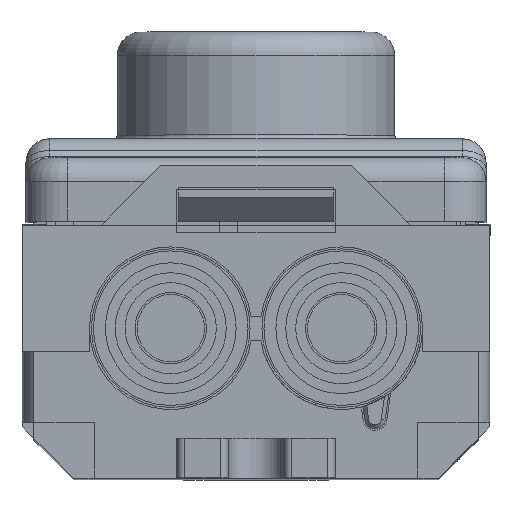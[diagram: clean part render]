
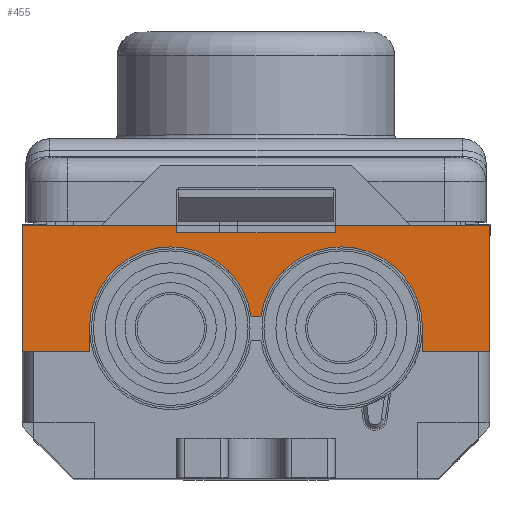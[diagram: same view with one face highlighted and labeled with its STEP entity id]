
A CAD part, top view. The second image highlights one B-rep face of the part: STEP entity #455.
In plain terms, the highlighted planar face has unit normal (0, 0, 1).
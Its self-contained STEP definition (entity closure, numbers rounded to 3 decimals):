
#132 = CARTESIAN_POINT ( 'NONE',  ( 0.826, 0.828, 161.7 ) ) ;
#244 = VERTEX_POINT ( 'NONE', #20962 ) ;
#455 = ADVANCED_FACE ( 'NONE', ( #29196 ), #6462, .T. ) ;
#748 = EDGE_CURVE ( 'NONE', #8318, #244, #10753, .T. ) ;
#986 = CARTESIAN_POINT ( 'NONE',  ( -29.284, 12.328, 161.7 ) ) ;
#1008 = VECTOR ( 'NONE', #8111, 1000. ) ;
#1191 = EDGE_CURVE ( 'NONE', #31389, #7045, #13922, .T. ) ;
#1247 = CARTESIAN_POINT ( 'NONE',  ( 0.826, 0.828, 161.7 ) ) ;
#1757 = CARTESIAN_POINT ( 'NONE',  ( -29.284, -3.672, 161.7 ) ) ;
#2224 = VECTOR ( 'NONE', #20614, 1000. ) ;
#2250 = DIRECTION ( 'NONE',  ( 0., -1., 0. ) ) ;
#2335 = CARTESIAN_POINT ( 'NONE',  ( 21.216, -3.672, 161.7 ) ) ;
#2759 = ORIENTED_EDGE ( 'NONE', *, *, #4877, .F. ) ;
#3237 = EDGE_CURVE ( 'NONE', #3375, #5194, #29451, .T. ) ;
#3375 = VERTEX_POINT ( 'NONE', #1247 ) ;
#3767 = EDGE_CURVE ( 'NONE', #11212, #31389, #23944, .T. ) ;
#3807 = ORIENTED_EDGE ( 'NONE', *, *, #23050, .F. ) ;
#4365 = CARTESIAN_POINT ( 'NONE',  ( 21.216, -3.672, 161.7 ) ) ;
#4670 = EDGE_CURVE ( 'NONE', #13442, #13118, #11511, .T. ) ;
#4877 = EDGE_CURVE ( 'NONE', #31993, #13442, #21113, .T. ) ;
#5194 = VERTEX_POINT ( 'NONE', #6915 ) ;
#5500 = LINE ( 'NONE', #28510, #11488 ) ;
#5922 = CARTESIAN_POINT ( 'NONE',  ( 10.216, 12.328, 161.7 ) ) ;
#5982 = CARTESIAN_POINT ( 'NONE',  ( -29.284, -3.672, 161.7 ) ) ;
#6156 = ORIENTED_EDGE ( 'NONE', *, *, #24367, .F. ) ;
#6237 = VERTEX_POINT ( 'NONE', #12427 ) ;
#6462 = PLANE ( 'NONE',  #16543 ) ;
#6472 = EDGE_CURVE ( 'NONE', #7045, #31993, #14648, .T. ) ;
#6915 = CARTESIAN_POINT ( 'NONE',  ( -0.394, 0.828, 161.7 ) ) ;
#7045 = VERTEX_POINT ( 'NONE', #30076 ) ;
#7288 = VERTEX_POINT ( 'NONE', #11206 ) ;
#7603 = VECTOR ( 'NONE', #24746, 1000. ) ;
#7804 = DIRECTION ( 'NONE',  ( -1., 0., 0. ) ) ;
#8111 = DIRECTION ( 'NONE',  ( 0., -1., 0. ) ) ;
#8155 = ORIENTED_EDGE ( 'NONE', *, *, #6472, .F. ) ;
#8318 = VERTEX_POINT ( 'NONE', #24193 ) ;
#8537 = DIRECTION ( 'NONE',  ( 0., 1., 0. ) ) ;
#9286 = LINE ( 'NONE', #5982, #22071 ) ;
#9399 = ORIENTED_EDGE ( 'NONE', *, *, #20755, .F. ) ;
#9978 = VECTOR ( 'NONE', #7804, 1000. ) ;
#10379 = VECTOR ( 'NONE', #26515, 1000. ) ;
#10422 = ORIENTED_EDGE ( 'NONE', *, *, #3237, .F. ) ;
#10610 = ORIENTED_EDGE ( 'NONE', *, *, #19822, .F. ) ;
#10697 = AXIS2_PLACEMENT_3D ( 'NONE', #14050, #31971, #16614 ) ;
#10746 = EDGE_CURVE ( 'NONE', #6237, #7288, #5500, .T. ) ;
#10753 = LINE ( 'NONE', #18866, #31178 ) ;
#11206 = CARTESIAN_POINT ( 'NONE',  ( -9.784, 11.328, 161.7 ) ) ;
#11212 = VERTEX_POINT ( 'NONE', #26415 ) ;
#11365 = ORIENTED_EDGE ( 'NONE', *, *, #23717, .F. ) ;
#11398 = VERTEX_POINT ( 'NONE', #19817 ) ;
#11488 = VECTOR ( 'NONE', #31061, 1000. ) ;
#11511 = LINE ( 'NONE', #4365, #17532 ) ;
#11548 = ORIENTED_EDGE ( 'NONE', *, *, #4670, .F. ) ;
#11650 = CARTESIAN_POINT ( 'NONE',  ( 29.716, 12.328, 161.7 ) ) ;
#12110 = DIRECTION ( 'NONE',  ( 0., 1., 0. ) ) ;
#12427 = CARTESIAN_POINT ( 'NONE',  ( -9.784, 12.328, 161.7 ) ) ;
#12581 = ORIENTED_EDGE ( 'NONE', *, *, #10746, .F. ) ;
#12898 = CIRCLE ( 'NONE', #17243, 10.25 ) ;
#13118 = VERTEX_POINT ( 'NONE', #31651 ) ;
#13234 = CARTESIAN_POINT ( 'NONE',  ( 10.966, -0.672, 161.7 ) ) ;
#13283 = VERTEX_POINT ( 'NONE', #1757 ) ;
#13442 = VERTEX_POINT ( 'NONE', #2335 ) ;
#13463 = AXIS2_PLACEMENT_3D ( 'NONE', #13234, #31140, #15793 ) ;
#13522 = CARTESIAN_POINT ( 'NONE',  ( -29.284, -3.672, 161.7 ) ) ;
#13922 = LINE ( 'NONE', #24131, #20748 ) ;
#13959 = CIRCLE ( 'NONE', #10697, 10.25 ) ;
#14050 = CARTESIAN_POINT ( 'NONE',  ( 10.966, -0.672, 161.7 ) ) ;
#14424 = DIRECTION ( 'NONE',  ( 0., 0., 1. ) ) ;
#14648 = LINE ( 'NONE', #26020, #1008 ) ;
#14940 = VECTOR ( 'NONE', #29582, 1000. ) ;
#15398 = CIRCLE ( 'NONE', #13463, 10.25 ) ;
#15722 = CARTESIAN_POINT ( 'NONE',  ( 29.716, -3.672, 161.7 ) ) ;
#15793 = DIRECTION ( 'NONE',  ( 0., 1., 0. ) ) ;
#16076 = DIRECTION ( 'NONE',  ( -1., 0., 0. ) ) ;
#16543 = AXIS2_PLACEMENT_3D ( 'NONE', #15722, #30628, #27137 ) ;
#16614 = DIRECTION ( 'NONE',  ( 0., 1., 0. ) ) ;
#17243 = AXIS2_PLACEMENT_3D ( 'NONE', #32932, #17583, #2250 ) ;
#17532 = VECTOR ( 'NONE', #12110, 1000. ) ;
#17583 = DIRECTION ( 'NONE',  ( 0., 0., 1. ) ) ;
#17869 = CARTESIAN_POINT ( 'NONE',  ( -29.284, -3.672, 161.7 ) ) ;
#18028 = EDGE_LOOP ( 'NONE', ( #12581, #10610, #9399, #6156, #18656, #20175, #31647, #10422, #19528, #3807, #11548, #2759, #8155, #19759, #18587, #11365 ) ) ;
#18587 = ORIENTED_EDGE ( 'NONE', *, *, #3767, .F. ) ;
#18656 = ORIENTED_EDGE ( 'NONE', *, *, #748, .F. ) ;
#18866 = CARTESIAN_POINT ( 'NONE',  ( -20.784, -3.672, 161.7 ) ) ;
#19528 = ORIENTED_EDGE ( 'NONE', *, *, #33188, .F. ) ;
#19759 = ORIENTED_EDGE ( 'NONE', *, *, #1191, .F. ) ;
#19817 = CARTESIAN_POINT ( 'NONE',  ( 10.966, 9.578, 161.7 ) ) ;
#19822 = EDGE_CURVE ( 'NONE', #31445, #6237, #26928, .T. ) ;
#20175 = ORIENTED_EDGE ( 'NONE', *, *, #20408, .F. ) ;
#20408 = EDGE_CURVE ( 'NONE', #23400, #8318, #28537, .T. ) ;
#20614 = DIRECTION ( 'NONE',  ( -1., 0., 0. ) ) ;
#20748 = VECTOR ( 'NONE', #21685, 1000. ) ;
#20755 = EDGE_CURVE ( 'NONE', #13283, #31445, #9286, .T. ) ;
#20962 = CARTESIAN_POINT ( 'NONE',  ( -20.784, -3.672, 161.7 ) ) ;
#21113 = LINE ( 'NONE', #13522, #27135 ) ;
#21685 = DIRECTION ( 'NONE',  ( 1., 0., 0. ) ) ;
#21962 = LINE ( 'NONE', #17869, #9978 ) ;
#22071 = VECTOR ( 'NONE', #8537, 1000. ) ;
#22159 = CARTESIAN_POINT ( 'NONE',  ( 10.216, 11.328, 161.7 ) ) ;
#22187 = CARTESIAN_POINT ( 'NONE',  ( 29.716, -3.672, 161.7 ) ) ;
#23050 = EDGE_CURVE ( 'NONE', #13118, #11398, #13959, .T. ) ;
#23400 = VERTEX_POINT ( 'NONE', #25337 ) ;
#23717 = EDGE_CURVE ( 'NONE', #7288, #11212, #28046, .T. ) ;
#23934 = CARTESIAN_POINT ( 'NONE',  ( 10.216, 16.828, 161.7 ) ) ;
#23944 = LINE ( 'NONE', #23934, #10379 ) ;
#24131 = CARTESIAN_POINT ( 'NONE',  ( 29.716, 12.328, 161.7 ) ) ;
#24193 = CARTESIAN_POINT ( 'NONE',  ( -20.784, -0.672, 161.7 ) ) ;
#24367 = EDGE_CURVE ( 'NONE', #244, #13283, #21962, .T. ) ;
#24746 = DIRECTION ( 'NONE',  ( 1., 0., 0. ) ) ;
#25337 = CARTESIAN_POINT ( 'NONE',  ( -10.534, 9.578, 161.7 ) ) ;
#26020 = CARTESIAN_POINT ( 'NONE',  ( 29.716, -3.672, 161.7 ) ) ;
#26415 = CARTESIAN_POINT ( 'NONE',  ( 10.216, 11.328, 161.7 ) ) ;
#26515 = DIRECTION ( 'NONE',  ( 0., 1., 0. ) ) ;
#26928 = LINE ( 'NONE', #11650, #14940 ) ;
#27135 = VECTOR ( 'NONE', #16076, 1000. ) ;
#27137 = DIRECTION ( 'NONE',  ( 0., -1., 0. ) ) ;
#27185 = AXIS2_PLACEMENT_3D ( 'NONE', #29761, #14424, #32331 ) ;
#27473 = EDGE_CURVE ( 'NONE', #5194, #23400, #12898, .T. ) ;
#28046 = LINE ( 'NONE', #22159, #7603 ) ;
#28510 = CARTESIAN_POINT ( 'NONE',  ( -9.784, 16.828, 161.7 ) ) ;
#28537 = CIRCLE ( 'NONE', #27185, 10.25 ) ;
#29196 = FACE_OUTER_BOUND ( 'NONE', #18028, .T. ) ;
#29451 = LINE ( 'NONE', #132, #2224 ) ;
#29582 = DIRECTION ( 'NONE',  ( 1., 0., 0. ) ) ;
#29761 = CARTESIAN_POINT ( 'NONE',  ( -10.534, -0.672, 161.7 ) ) ;
#30076 = CARTESIAN_POINT ( 'NONE',  ( 29.716, 12.328, 161.7 ) ) ;
#30628 = DIRECTION ( 'NONE',  ( 0., 0., 1. ) ) ;
#31061 = DIRECTION ( 'NONE',  ( 0., -1., 0. ) ) ;
#31140 = DIRECTION ( 'NONE',  ( 0., 0., 1. ) ) ;
#31178 = VECTOR ( 'NONE', #31642, 1000. ) ;
#31389 = VERTEX_POINT ( 'NONE', #5922 ) ;
#31445 = VERTEX_POINT ( 'NONE', #986 ) ;
#31642 = DIRECTION ( 'NONE',  ( 0., -1., 0. ) ) ;
#31647 = ORIENTED_EDGE ( 'NONE', *, *, #27473, .F. ) ;
#31651 = CARTESIAN_POINT ( 'NONE',  ( 21.216, -0.672, 161.7 ) ) ;
#31971 = DIRECTION ( 'NONE',  ( 0., 0., 1. ) ) ;
#31993 = VERTEX_POINT ( 'NONE', #22187 ) ;
#32331 = DIRECTION ( 'NONE',  ( 0., -1., 0. ) ) ;
#32932 = CARTESIAN_POINT ( 'NONE',  ( -10.534, -0.672, 161.7 ) ) ;
#33188 = EDGE_CURVE ( 'NONE', #11398, #3375, #15398, .T. ) ;
